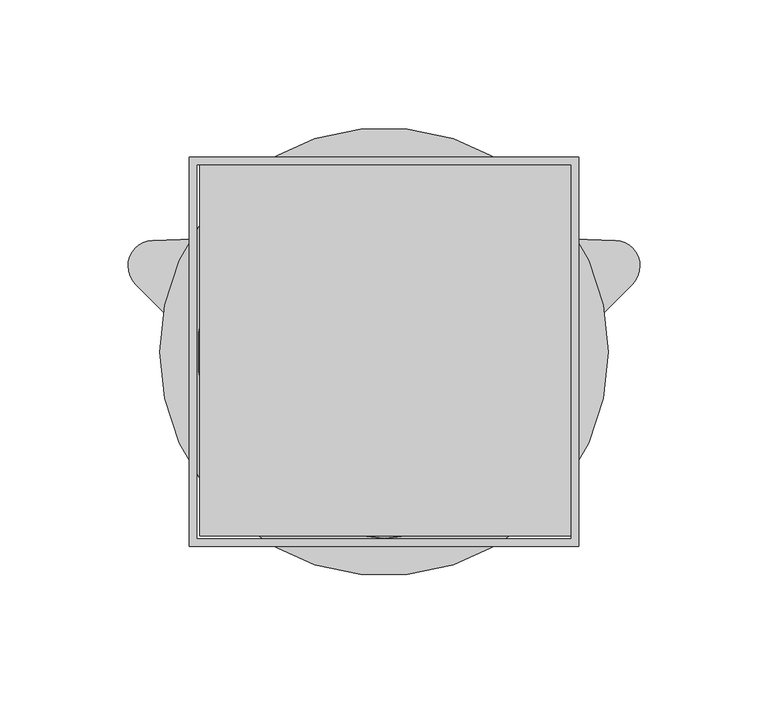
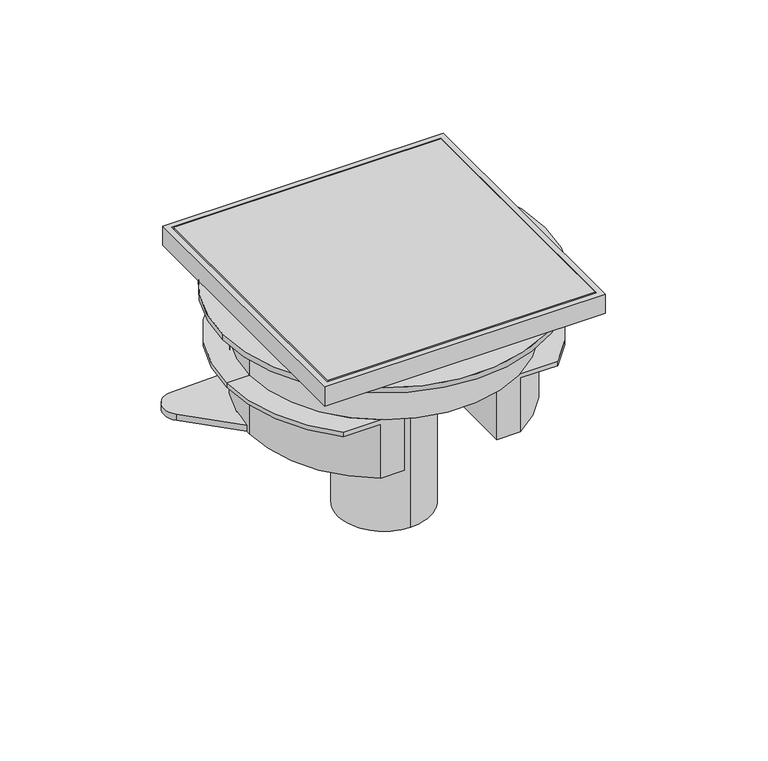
"""IFC4 building model written with IfcOpenShell, lengths in millimetres: sanitary terminal geometry, NLRS_PF_52_UN_Aqua Brilliant_Easydrain : Brilliant onderuitloop 50mm."""

import ifcopenshell
import ifcopenshell.guid

model = None  # the IFC model being written
_history = None  # IfcOwnerHistory: only IFC2X3 demands one
_inside = {}  # id of a spatial element -> (the spatial element, [elements in it])
_under = {}  # id of a project, library or spatial element -> (it, [spatial elements below it])
_declared = {}  # id of a project -> (the project, [libraries it declares])
_typed = {}  # id of a type object -> (the type object, [elements of that type])
_made_of = {}  # id of a material, layer set ... -> (it, [elements and type objects made of it])


def new_model(schema):
    """Start an empty IFC model of exactly this schema.

    Asked for "IFC4X3", IfcOpenShell would pick the latest addendum, in which some entities
    have other attributes; the version numbers below select the first issue.
    IFC2X3 requires an IfcOwnerHistory on every rooted entity: one is made here for all.
    """
    global model, _history
    if schema == "IFC4X3":
        model = ifcopenshell.file(schema_version=(4, 3, 0, 0))
    else:
        model = ifcopenshell.file(schema=schema)
    _inside.clear()
    _under.clear()
    _declared.clear()
    _typed.clear()
    _made_of.clear()
    _history = None
    if model.schema == "IFC2X3":
        org = make("IfcOrganization", Name="unknown")
        user = make(
            "IfcPersonAndOrganization",
            ThePerson=make("IfcPerson", FamilyName="unknown"),
            TheOrganization=org,
        )
        app = make(
            "IfcApplication",
            ApplicationDeveloper=org,
            Version="unknown",
            ApplicationFullName="unknown",
            ApplicationIdentifier="unknown",
        )
        _history = make(
            "IfcOwnerHistory",
            OwningUser=user,
            OwningApplication=app,
            ChangeAction="ADDED",
            CreationDate=0,
        )
    return model


def make(cls, **values):
    """One entity of the class cls with the attributes given. An attribute that is None is left unset."""
    return model.create_entity(
        cls, **{name: value for name, value in values.items() if value is not None}
    )


def rooted(cls, **values):
    """An entity with a GlobalId (a new one), such as an element, a storey or a relation."""
    return make(cls, GlobalId=ifcopenshell.guid.new(), OwnerHistory=_history, **values)


def si_unit(unit_type, name, prefix=None):
    """IfcSIUnit, for example si_unit("LENGTHUNIT", "METRE", prefix="MILLI")."""
    return make("IfcSIUnit", UnitType=unit_type, Prefix=prefix, Name=name)


def assignment(units):
    """IfcUnitAssignment: the units of a project."""
    return None if units is None else make("IfcUnitAssignment", Units=units)


def point(xyz):
    """IfcCartesianPoint."""
    return None if xyz is None else make("IfcCartesianPoint", Coordinates=xyz)


def direction(xyz):
    """IfcDirection."""
    return None if xyz is None else make("IfcDirection", DirectionRatios=xyz)


def frame(location, z_axis=None, x_axis=None):
    """IfcAxis2Placement3D, a coordinate frame: its origin and axes. An axis left out is left unset."""
    return make(
        "IfcAxis2Placement3D",
        Location=point(location),
        Axis=direction(z_axis),
        RefDirection=direction(x_axis),
    )


def frame_2d(location, x_axis=None):
    """IfcAxis2Placement2D, a coordinate frame in the plane: its origin and x axis."""
    return make(
        "IfcAxis2Placement2D", Location=point(location), RefDirection=direction(x_axis)
    )


def origin():
    """The frame at (0, 0, 0) with its axes left unset."""
    return frame((0.0, 0.0, 0.0))


def origin_2d():
    """The frame at (0, 0) in the plane with its x axis left unset."""
    return frame_2d((0.0, 0.0))


def place(relative_to, where):
    """IfcLocalPlacement: puts the frame where relative to a parent placement (None: the world)."""
    return make(
        "IfcLocalPlacement", PlacementRelTo=relative_to, RelativePlacement=where
    )


def context(
    kind, dimensions, precision=None, world=None, true_north=None, identifier=None
):
    """IfcGeometricRepresentationContext, for example the 3D "Model" context."""
    return make(
        "IfcGeometricRepresentationContext",
        ContextIdentifier=identifier,
        ContextType=kind,
        CoordinateSpaceDimension=dimensions,
        Precision=precision,
        WorldCoordinateSystem=world,
        TrueNorth=true_north,
    )


def project(units=None, contexts=None):
    """IfcProject with its units and contexts."""
    return rooted(
        "IfcProject",
        Name="project",
        RepresentationContexts=contexts,
        UnitsInContext=assignment(units),
    )


def spatial(cls, under=None, at=None, **own):
    """A site, building, storey or space (cls), placed at a placement, below another one or the project."""
    s = rooted(cls, ObjectPlacement=at, **own)
    if under is not None:
        _under.setdefault(under.id(), (under, []))[1].append(s)
    return s


def polyline(points):
    """IfcPolyline through the points."""
    return make("IfcPolyline", Points=[point(p) for p in points])


def circle_curve(where, radius):
    """IfcCircle in the frame where."""
    return make("IfcCircle", Position=where, Radius=radius)


def trimmed(basis, trim1, trim2, sense, master):
    """IfcTrimmedCurve: the piece of a basis curve between two trims."""
    return make(
        "IfcTrimmedCurve",
        BasisCurve=basis,
        Trim1=trim1,
        Trim2=trim2,
        SenseAgreement=sense,
        MasterRepresentation=master,
    )


def segment(curve, same_sense, transition):
    """IfcCompositeCurveSegment."""
    return make(
        "IfcCompositeCurveSegment",
        Transition=transition,
        SameSense=same_sense,
        ParentCurve=curve,
    )


def composite_curve(segments, self_intersect=None):
    """IfcCompositeCurve: segments joined end to end."""
    return make("IfcCompositeCurve", Segments=segments, SelfIntersect=self_intersect)


def outline(outer, holes=None, kind="AREA"):
    """IfcArbitraryClosedProfileDef: a profile drawn as a closed curve; with holes, ...WithVoids."""
    if holes is None:
        return make("IfcArbitraryClosedProfileDef", ProfileType=kind, OuterCurve=outer)
    return make(
        "IfcArbitraryProfileDefWithVoids",
        ProfileType=kind,
        OuterCurve=outer,
        InnerCurves=holes,
    )


def extrude(swept, where, along, depth):
    """IfcExtrudedAreaSolid: the profile swept, set in the frame where, extruded along a direction by depth."""
    return make(
        "IfcExtrudedAreaSolid",
        SweptArea=swept,
        Position=where,
        ExtrudedDirection=direction(along),
        Depth=depth,
    )


def shape(context_of_items, identifier, shape_type, items):
    """IfcShapeRepresentation: the items that make up one representation, for example the "Body"."""
    return make(
        "IfcShapeRepresentation",
        ContextOfItems=context_of_items,
        RepresentationIdentifier=identifier,
        RepresentationType=shape_type,
        Items=items,
    )


def source(mapping_origin, context_of_items, identifier, shape_type, items):
    """IfcRepresentationMap: a shape defined once, which mapped items show again and again."""
    return make(
        "IfcRepresentationMap",
        MappingOrigin=mapping_origin,
        MappedRepresentation=shape(context_of_items, identifier, shape_type, items),
    )


def transform(
    local_origin,
    x_axis=None,
    y_axis=None,
    z_axis=None,
    scale=None,
    scale2=None,
    scale3=None,
    uniform=True,
):
    """IfcCartesianTransformationOperator3D, or its non-uniform kind. x_axis, y_axis, z_axis: its Axis1, 2, 3."""
    if uniform:
        return make(
            "IfcCartesianTransformationOperator3D",
            Axis1=direction(x_axis),
            Axis2=direction(y_axis),
            LocalOrigin=point(local_origin),
            Scale=scale,
            Axis3=direction(z_axis),
        )
    return make(
        "IfcCartesianTransformationOperator3DnonUniform",
        Axis1=direction(x_axis),
        Axis2=direction(y_axis),
        LocalOrigin=point(local_origin),
        Scale=scale,
        Axis3=direction(z_axis),
        Scale2=scale2,
        Scale3=scale3,
    )


def mapped(mapping_source, mapping_target):
    """IfcMappedItem: shows the shape of a source again, moved by a transform."""
    return make(
        "IfcMappedItem", MappingSource=mapping_source, MappingTarget=mapping_target
    )


def made_of(thing, what):
    """Note that an element or type object is made of a material, layer set ...; save() writes the relation."""
    if what is not None:
        _made_of.setdefault(what.id(), (what, []))[1].append(thing)
    return thing


def element(
    cls,
    number,
    at=None,
    inside=None,
    cuts=None,
    type_object=None,
    material=None,
    context=None,
    identifier="Body",
    shape_type=None,
    held_by="IfcProductDefinitionShape",
    body=None,
    shapes=None,
    **own,
):
    """One element of the class cls, such as IfcWall. Its Tag is "e" and its number.

    at: its placement. inside: the storey or other place that contains it. cuts: it is an
    opening in that element (IfcRelVoidsElement). A single representation is given by context,
    identifier, shape_type and body (its items); several are given by shapes. held_by: the class
    of the entity that holds the representations. save() writes the other relations.
    """
    e = rooted(cls, Tag="e%d" % number, ObjectPlacement=at, **own)
    if body is not None:
        shapes = [shape(context, identifier, shape_type, body)]
    if shapes is not None:
        e.Representation = make(held_by, Representations=shapes)
    if inside is not None:
        _inside.setdefault(inside.id(), (inside, []))[1].append(e)
    if cuts is not None:
        rooted(
            "IfcRelVoidsElement", RelatingBuildingElement=cuts, RelatedOpeningElement=e
        )
    if type_object is not None:
        _typed.setdefault(type_object.id(), (type_object, []))[1].append(e)
    return made_of(e, material)


def aggregate(whole, parts):
    """IfcRelAggregates: a whole, such as a stair, and the parts it consists of."""
    return rooted("IfcRelAggregates", RelatingObject=whole, RelatedObjects=parts)


def save(model, path):
    """Write the relations noted so far, then the file.

    IfcRelAggregates (storeys below a building ...), IfcRelContainedInSpatialStructure (elements
    in a storey), IfcRelDefinesByType, IfcRelAssociatesMaterial and IfcRelDeclares: one each for
    every whole, place, type object, material and project.
    """
    for whole, parts in _under.values():
        aggregate(whole, parts)
    for where, things in _inside.values():
        rooted(
            "IfcRelContainedInSpatialStructure",
            RelatedElements=things,
            RelatingStructure=where,
        )
    for kind, things in _typed.values():
        rooted("IfcRelDefinesByType", RelatedObjects=things, RelatingType=kind)
    for what, things in _made_of.values():
        rooted("IfcRelAssociatesMaterial", RelatedObjects=things, RelatingMaterial=what)
    for by, libraries in _declared.values():
        rooted("IfcRelDeclares", RelatingContext=by, RelatedDefinitions=libraries)
    model.write(path)


def plane_surface(at):
    """IfcPlane: the flat surface through the origin of the frame at, square to its z axis."""
    return make("IfcPlane", Position=at)


def cylinder_surface(at, radius):
    """IfcCylindricalSurface: all points at the distance radius from the z axis of the frame at."""
    return make("IfcCylindricalSurface", Position=at, Radius=radius)


def advanced_brep(points, edges, surfaces, faces):
    """IfcAdvancedBrep: a solid bounded by faces that lie on surfaces and meet in shared edges.

    An edge is (start, end): straight between two places in points (the first is 0);
    or (start, end, curve); or (start, end, curve, False) where it runs against its curve.
    A face is (place in surfaces, loops), or (place, loops, False) where it looks against
    its surface's normal. A loop lists edges by number (the first is 1), with a minus sign
    where the edge is run from its end to its start. The first loop is the outer one.
    """
    corners = [point(p) for p in points]
    vertices = [make("IfcVertexPoint", VertexGeometry=c) for c in corners]
    made = []
    for start, end, *more in edges:
        made.append(
            make(
                "IfcEdgeCurve",
                EdgeStart=vertices[start],
                EdgeEnd=vertices[end],
                EdgeGeometry=more[0] if more else make("IfcPolyline", Points=[corners[start], corners[end]]),
                SameSense=more[1] if len(more) > 1 else True,
            )
        )
    hull = []
    for where, loops, *sense in faces:
        bounds = []
        for j, loop in enumerate(loops):
            ring = [make("IfcOrientedEdge", EdgeElement=made[abs(k) - 1], Orientation=k > 0) for k in loop]
            bounds.append(
                make(
                    "IfcFaceOuterBound" if j == 0 else "IfcFaceBound",
                    Bound=make("IfcEdgeLoop", EdgeList=ring),
                    Orientation=True,
                )
            )
        hull.append(make("IfcAdvancedFace", Bounds=bounds, FaceSurface=surfaces[where], SameSense=sense[0] if sense else True))
    return make("IfcAdvancedBrep", Outer=make("IfcClosedShell", CfsFaces=hull))


def sanitary_terminal_1823a797(model_context):
    return source(origin(), model_context, "Body", "SolidModel", [
        extrude(outline(polyline([(76.0, 76.0), (76.0, -76.0), (-76.0, -76.0), (-76.0, 76.0), (76.0, 76.0)]), holes=[polyline([(73.0, 73.0), (-73.0, 73.0), (-73.0, -73.0), (73.0, -73.0), (73.0, 73.0)])]), frame((0.0, 0.0, -11.0), z_axis=(0.0, 0.0, 1.0), x_axis=(1.0, 0.0, 0.0)), (0.0, 0.0, 1.0), 11.0),
        extrude(outline(polyline([(74.0, 74.0), (74.0, -72.0), (-72.0, -72.0), (-72.0, 74.0), (74.0, 74.0)])), frame((0.0, 0.0, -11.0), z_axis=(0.0, 0.0, 1.0), x_axis=(1.0, 0.0, 0.0)), (0.0, 0.0, 1.0), 11.0),
        extrude(outline(composite_curve([segment(trimmed(circle_curve(origin_2d(), 87.5), [point((-87.5, 0.0))], [point((87.5, 0.0))], False, "CARTESIAN"), True, "CONTINUOUS"), segment(trimmed(circle_curve(origin_2d(), 87.5), [point((87.5, 0.0))], [point((-87.5, 0.0))], False, "CARTESIAN"), True, "CONTINUOUS")], self_intersect=False)), frame((0.0, 0.0, -15.0), z_axis=(0.0, 0.0, 1.0), x_axis=(1.0, 0.0, 0.0)), (0.0, 0.0, 1.0), 3.0),
        advanced_brep(
        [(-25.0, 0.0, -74.0), (-73.0, 0.0, -74.0), (-72.9614474, 2.372172, -74.0), (-97.0710678, 26.4817925, -74.0), (-90.348995, 43.5467685, -74.0), (-57.7248547, 44.6860286, -74.0), (57.7248547, 44.6860286, -74.0), (90.348995, 43.5467685, -74.0), (97.0710678, 26.4817925, -74.0), (72.9614474, 2.372172, -74.0), (73.0, 0.0, -74.0), (25.0, 0.0, -74.0), (0.0, 25.0, -74.0), (-25.0, -62.3925051, -74.0), (-37.8969037, -62.3925051, -74.0), (37.8969037, -62.3925051, -74.0), (25.0, -62.3925051, -74.0), (73.0, 0.0, -15.5), (-73.0, 0.0, -15.5), (-25.0, 0.0, -15.5), (0.0, 25.0, -15.5), (25.0, 0.0, -15.5), (0.0, -25.0, -15.5), (85.3290047, 0.0, -40.5), (-85.3290047, 0.0, -40.5), (-73.0, 0.0, -40.5), (73.0, 0.0, -40.5), (-58.2083701, -62.3925051, -40.5), (-37.8969037, -62.3925051, -40.5), (37.8969037, -62.3925051, -40.5), (58.2083701, -62.3925051, -40.5), (85.3290047, 0.0, -43.0), (-85.3290047, 0.0, -43.0), (58.2083701, -62.3925051, -43.0), (-58.2083701, -62.3925051, -43.0), (73.0, 0.0, -43.0), (-73.0, 0.0, -43.0), (37.8969037, -62.3925051, -43.0), (-37.8969037, -62.3925051, -43.0), (-25.0, -62.3925051, -40.5), (-25.0, 0.0, -40.5), (0.0, -25.0, -40.5), (25.0, 0.0, -40.5), (25.0, -62.3925051, -40.5), (-97.0710678, 26.4817925, -70.5), (-72.9614474, 2.372172, -70.5), (-57.7248547, 44.6860286, -70.5), (-90.348995, 43.5467685, -70.5), (97.0710678, 26.4817925, -70.5), (90.348995, 43.5467685, -70.5), (57.7248547, 44.6860286, -70.5), (72.9614474, 2.372172, -70.5), (0.0, 25.0, -138.0), (0.0, -25.0, -138.0), (0.0, 25.0, -13.0), (0.0, -25.0, -13.0)],
        [
            (0, 1),
            (1, 2, circle_curve(frame((0.0, 0.0, -74.0), z_axis=(0.0, 0.0, -1.0), x_axis=(-1.0, 0.0, 0.0)), 73.0)),
            (2, 3),
            (3, 4, circle_curve(frame((-90.0, 33.5528603, -74.0), z_axis=(0.0, 0.0, -1.0), x_axis=(-1.0, 0.0, 0.0)), 10.0)),
            (4, 5),
            (5, 6, circle_curve(frame((0.0, 0.0, -74.0), z_axis=(0.0, 0.0, -1.0), x_axis=(-1.0, 0.0, 0.0)), 73.0)),
            (6, 7),
            (7, 8, circle_curve(frame((90.0, 33.5528603, -74.0), z_axis=(0.0, 0.0, -1.0), x_axis=(-1.0, 0.0, 0.0)), 10.0)),
            (8, 9),
            (9, 10, circle_curve(frame((0.0, 0.0, -74.0), z_axis=(0.0, 0.0, -1.0), x_axis=(-1.0, 0.0, 0.0)), 73.0)),
            (10, 11),
            (11, 12, circle_curve(frame((0.0, 0.0, -74.0), z_axis=(0.0, 0.0, 1.0), x_axis=(0.0, -1.0, 0.0)), 25.0)),
            (12, 0, circle_curve(frame((0.0, 0.0, -74.0), z_axis=(0.0, 0.0, 1.0), x_axis=(0.0, -1.0, 0.0)), 25.0)),
            (0, 13),
            (13, 14),
            (14, 1, circle_curve(frame((0.0, 0.0, -74.0), z_axis=(0.0, 0.0, -1.0), x_axis=(-1.0, 0.0, 0.0)), 73.0)),
            (10, 15, circle_curve(frame((0.0, 0.0, -74.0), z_axis=(0.0, 0.0, -1.0), x_axis=(-1.0, 0.0, 0.0)), 73.0)),
            (15, 16),
            (16, 11),
            (17, 18, circle_curve(frame((0.0, 0.0, -15.5), z_axis=(0.0, 0.0, 1.0), x_axis=(-1.0, 0.0, 0.0)), 73.0)),
            (18, 19),
            (19, 20, circle_curve(frame((0.0, 0.0, -15.5), z_axis=(0.0, 0.0, -1.0), x_axis=(0.0, -1.0, 0.0)), 25.0)),
            (20, 21, circle_curve(frame((0.0, 0.0, -15.5), z_axis=(0.0, 0.0, -1.0), x_axis=(0.0, -1.0, 0.0)), 25.0)),
            (21, 17),
            (18, 17, circle_curve(frame((0.0, 0.0, -15.5), z_axis=(0.0, 0.0, 1.0), x_axis=(-1.0, 0.0, 0.0)), 73.0)),
            (21, 22, circle_curve(frame((0.0, 0.0, -15.5), z_axis=(0.0, 0.0, -1.0), x_axis=(0.0, -1.0, 0.0)), 25.0)),
            (22, 19, circle_curve(frame((0.0, 0.0, -15.5), z_axis=(0.0, 0.0, -1.0), x_axis=(0.0, -1.0, 0.0)), 25.0)),
            (23, 24, circle_curve(frame((0.0, 0.0, -40.5), z_axis=(0.0, 0.0, 1.0), x_axis=(-1.0, 0.0, 0.0)), 85.3290047)),
            (24, 25),
            (25, 26, circle_curve(frame((0.0, 0.0, -40.5), z_axis=(0.0, 0.0, -1.0), x_axis=(-1.0, 0.0, 0.0)), 73.0)),
            (26, 23),
            (24, 27, circle_curve(frame((0.0, 0.0, -40.5), z_axis=(0.0, 0.0, 1.0), x_axis=(-1.0, 0.0, 0.0)), 85.3290047)),
            (27, 28),
            (28, 25, circle_curve(frame((0.0, 0.0, -40.5), z_axis=(0.0, 0.0, -1.0), x_axis=(-1.0, 0.0, 0.0)), 73.0)),
            (26, 29, circle_curve(frame((0.0, 0.0, -40.5), z_axis=(0.0, 0.0, -1.0), x_axis=(-1.0, 0.0, 0.0)), 73.0)),
            (29, 30),
            (30, 23, circle_curve(frame((0.0, 0.0, -40.5), z_axis=(0.0, 0.0, 1.0), x_axis=(-1.0, 0.0, 0.0)), 85.3290047)),
            (23, 31),
            (31, 32, circle_curve(frame((0.0, 0.0, -43.0), z_axis=(0.0, 0.0, 1.0), x_axis=(-1.0, 0.0, 0.0)), 85.3290047)),
            (32, 24),
            (30, 33),
            (33, 31, circle_curve(frame((0.0, 0.0, -43.0), z_axis=(0.0, 0.0, 1.0), x_axis=(-1.0, 0.0, 0.0)), 85.3290047)),
            (32, 34, circle_curve(frame((0.0, 0.0, -43.0), z_axis=(0.0, 0.0, 1.0), x_axis=(-1.0, 0.0, 0.0)), 85.3290047)),
            (34, 27),
            (31, 35),
            (35, 36, circle_curve(frame((0.0, 0.0, -43.0), z_axis=(0.0, 0.0, 1.0), x_axis=(-1.0, 0.0, 0.0)), 73.0)),
            (36, 32),
            (33, 37),
            (37, 35, circle_curve(frame((0.0, 0.0, -43.0), z_axis=(0.0, 0.0, 1.0), x_axis=(-1.0, 0.0, 0.0)), 73.0)),
            (36, 38, circle_curve(frame((0.0, 0.0, -43.0), z_axis=(0.0, 0.0, 1.0), x_axis=(-1.0, 0.0, 0.0)), 73.0)),
            (38, 34),
            (28, 39),
            (39, 40),
            (40, 41, circle_curve(frame((0.0, 0.0, -40.5), z_axis=(0.0, 0.0, 1.0), x_axis=(0.0, -1.0, 0.0)), 25.0)),
            (41, 42, circle_curve(frame((0.0, 0.0, -40.5), z_axis=(0.0, 0.0, 1.0), x_axis=(0.0, -1.0, 0.0)), 25.0)),
            (42, 43),
            (43, 29),
            (29, 28, circle_curve(frame((0.0, 0.0, -40.5), z_axis=(0.0, 0.0, -1.0), x_axis=(-1.0, 0.0, 0.0)), 73.0)),
            (38, 14),
            (13, 39),
            (43, 16),
            (15, 37),
            (44, 45),
            (45, 46, circle_curve(frame((0.0, 0.0, -70.5), z_axis=(0.0, 0.0, -1.0), x_axis=(-1.0, 0.0, 0.0)), 73.0)),
            (46, 47),
            (47, 44, circle_curve(frame((-90.0, 33.5528603, -70.5), z_axis=(0.0, 0.0, 1.0), x_axis=(-1.0, 0.0, 0.0)), 10.0)),
            (48, 49, circle_curve(frame((90.0, 33.5528603, -70.5), z_axis=(0.0, 0.0, 1.0), x_axis=(-1.0, 0.0, 0.0)), 10.0)),
            (49, 50),
            (50, 51, circle_curve(frame((0.0, 0.0, -70.5), z_axis=(0.0, 0.0, -1.0), x_axis=(-1.0, 0.0, 0.0)), 73.0)),
            (51, 48),
            (44, 3),
            (2, 45),
            (46, 5),
            (4, 47),
            (52, 53, circle_curve(frame((0.0, 0.0, -138.0), z_axis=(0.0, 0.0, -1.0), x_axis=(0.0, -1.0, 0.0)), 25.0)),
            (53, 52, circle_curve(frame((0.0, 0.0, -138.0), z_axis=(0.0, 0.0, -1.0), x_axis=(0.0, -1.0, 0.0)), 25.0)),
            (54, 55, circle_curve(frame((0.0, 0.0, -13.0), z_axis=(0.0, 0.0, 1.0), x_axis=(0.0, -1.0, 0.0)), 25.0)),
            (55, 54, circle_curve(frame((0.0, 0.0, -13.0), z_axis=(0.0, 0.0, 1.0), x_axis=(0.0, -1.0, 0.0)), 25.0)),
            (52, 12),
            (11, 42),
            (41, 53),
            (55, 22),
            (20, 54),
            (40, 0),
            (17, 26),
            (25, 18),
            (35, 10),
            (9, 51),
            (50, 6),
            (1, 36),
            (48, 8),
            (7, 49),
        ],
        [
            plane_surface(frame((0.0, 0.0, -74.0), z_axis=(0.0, 0.0, -1.0), x_axis=(-1.0, 0.0, 0.0))),
            plane_surface(frame((0.0, 0.0, -15.5), z_axis=(0.0, 0.0, 1.0), x_axis=(-1.0, 0.0, 0.0))),
            plane_surface(frame((0.0, 0.0, -40.5), z_axis=(0.0, 0.0, 1.0), x_axis=(-1.0, 0.0, 0.0))),
            cylinder_surface(frame((0.0, 0.0, -9.5), z_axis=(0.0, 0.0, -1.0), x_axis=(-1.0, 0.0, 0.0)), 85.3290047),
            plane_surface(frame((0.0, 0.0, -43.0), z_axis=(0.0, 0.0, -1.0), x_axis=(-1.0, 0.0, 0.0))),
            plane_surface(frame((73.895712, -62.3925051, -40.5), z_axis=(0.0, 0.0, -1.0), x_axis=(-1.0, 0.0, 0.0))),
            plane_surface(frame((73.895712, -62.3925051, -74.0), z_axis=(0.0, -1.0, 0.0), x_axis=(-1.0, 0.0, 0.0))),
            plane_surface(frame((-72.9614474, 2.372172, -70.5), z_axis=(0.0, 0.0, 1.0), x_axis=(0.7071067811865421, -0.7071067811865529, 0.0))),
            plane_surface(frame((-97.0710678, 26.4817925, -70.5), z_axis=(-0.7071067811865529, -0.7071067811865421, 0.0), x_axis=(0.0, 0.0, -1.0))),
            plane_surface(frame((-57.7248547, 44.6860286, -70.5), z_axis=(-0.03489949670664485, 0.9993908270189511, 0.0), x_axis=(0.0, 0.0, -1.0))),
            cylinder_surface(frame((-90.0, 33.5528603, -74.0), z_axis=(0.0, 0.0, 1.0), x_axis=(-1.0, 0.0, 0.0)), 10.0),
            plane_surface(frame((0.0, 0.0, -138.0), z_axis=(0.0, 0.0, -1.0), x_axis=(1.0, 0.0, 0.0))),
            plane_surface(frame((0.0, 0.0, -13.0), z_axis=(0.0, 0.0, 1.0), x_axis=(1.0, 0.0, 0.0))),
            cylinder_surface(frame((0.0, 0.0, -138.0), z_axis=(0.0, 0.0, -1.0), x_axis=(0.0, -1.0, 0.0)), 25.0),
            cylinder_surface(frame((0.0, 0.0, -9.5), z_axis=(0.0, 0.0, -1.0), x_axis=(-1.0, 0.0, 0.0)), 73.0),
            plane_surface(frame((-25.0, -250.0, -40.5), z_axis=(1.0, 0.0, 0.0), x_axis=(0.0, 1.0, 0.0))),
            plane_surface(frame((25.0, -250.0, -74.0), z_axis=(-1.0, 0.0, 0.0), x_axis=(0.0, 1.0, 0.0))),
            cylinder_surface(frame((90.0, 33.5528603, -74.0), z_axis=(0.0, 0.0, 1.0), x_axis=(-1.0, 0.0, 0.0)), 10.0),
            plane_surface(frame((90.348995, 43.5467685, -70.5), z_axis=(0.03489949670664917, 0.9993908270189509, 0.0), x_axis=(0.0, 0.0, -1.0))),
            plane_surface(frame((72.9614474, 2.372172, -70.5), z_axis=(0.7071067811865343, -0.7071067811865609, 0.0), x_axis=(0.0, 0.0, -1.0))),
        ],
        [
            (0, [[1, 2, 3, 4, 5, 6, 7, 8, 9, 10, 11, 12, 13]]),
            (0, [[-1, 14, 15, 16]]),
            (0, [[-11, 17, 18, 19]]),
            (1, [[20, 21, 22, 23, 24]]),
            (1, [[-21, 25, -24, 26, 27]]),
            (2, [[28, 29, 30, 31]]),
            (2, [[-29, 32, 33, 34]]),
            (2, [[-31, 35, 36, 37]]),
            (3, [[-28, 38, 39, 40]]),
            (3, [[-38, -37, 41, 42]]),
            (3, [[-40, 43, 44, -32]]),
            (4, [[-39, 45, 46, 47]]),
            (4, [[-45, -42, 48, 49]]),
            (4, [[-47, 50, 51, -43]]),
            (5, [[52, 53, 54, 55, 56, 57, 58]]),
            (6, [[-33, -44, -51, 59, -15, 60, -52]]),
            (6, [[-36, -57, 61, -18, 62, -48, -41]]),
            (7, [[63, 64, 65, 66]]),
            (7, [[67, 68, 69, 70]]),
            (8, [[-63, 71, -3, 72]]),
            (9, [[-65, 73, -5, 74]]),
            (10, [[-66, -74, -4, -71]]),
            (11, [[75, 76]]),
            (12, [[77, 78]]),
            (13, [[-75, 79, -12, 80, -55, 81]]),
            (13, [[-78, 82, -26, -23, 83]]),
            (13, [[-76, -81, -54, 84, -13, -79]]),
            (13, [[-77, -83, -22, -27, -82]]),
            (14, [[-20, 85, -30, 86]]),
            (14, [[-25, -86, -34, -58, -35, -85]]),
            (14, [[-46, 87, -10, 88, -69, 89, -6, -73, -64, -72, -2, 90]]),
            (14, [[-87, -49, -62, -17]]),
            (14, [[-90, -16, -59, -50]]),
            (15, [[-53, -60, -14, -84]]),
            (16, [[-56, -80, -19, -61]]),
            (17, [[-67, 91, -8, 92]]),
            (18, [[-68, -92, -7, -89]]),
            (19, [[-70, -88, -9, -91]]),
        ],
    ),
        extrude(outline(composite_curve([segment(trimmed(circle_curve(origin_2d(), 72.85), [point((0.0, -72.85))], [point((0.0, 72.85))], False, "CARTESIAN"), True, "CONTINUOUS"), segment(trimmed(circle_curve(origin_2d(), 72.85), [point((0.0, 72.85))], [point((0.0, -72.85))], False, "CARTESIAN"), True, "CONTINUOUS")], self_intersect=False), holes=[composite_curve([segment(trimmed(circle_curve(origin_2d(), 67.9141553), [point((0.0, 67.9141553))], [point((0.0, -67.9141553))], True, "CARTESIAN"), True, "CONTINUOUS"), segment(trimmed(circle_curve(origin_2d(), 67.9141553), [point((0.0, -67.9141553))], [point((0.0, 67.9141553))], True, "CARTESIAN"), True, "CONTINUOUS")], self_intersect=False)]), frame((0.0, 0.0, -15.1092534), z_axis=(0.0, 0.0, 1.0), x_axis=(1.0, 0.0, 0.0)), (0.0, 0.0, 1.0), 4.1092534),
    ])


if __name__ == "__main__":
    model = new_model("IFC4")
    model_context = context("Model", 3, world=origin())
    ifc_project = project(units=[si_unit("LENGTHUNIT", "METRE", prefix="MILLI")], contexts=[model_context])
    site = spatial("IfcSite", under=ifc_project)
    building = spatial("IfcBuilding", under=site)
    placement = place(None, origin())
    sanitary_terminal_shape = sanitary_terminal_1823a797(model_context)
    element("IfcSanitaryTerminal", 1, ObjectType="NLRS_PF_52_UN_Aqua Brilliant_Easydrain : Brilliant onderuitloop 50mm", at=placement, inside=building, context=model_context, shape_type="MappedRepresentation", body=[
        mapped(sanitary_terminal_shape, transform((0.0, 0.0, 0.0), x_axis=(1.0, 0.0, 0.0), y_axis=(0.0, 1.0, 0.0), z_axis=(0.0, 0.0, 1.0))),
    ])
    save(model, "model.ifc")
